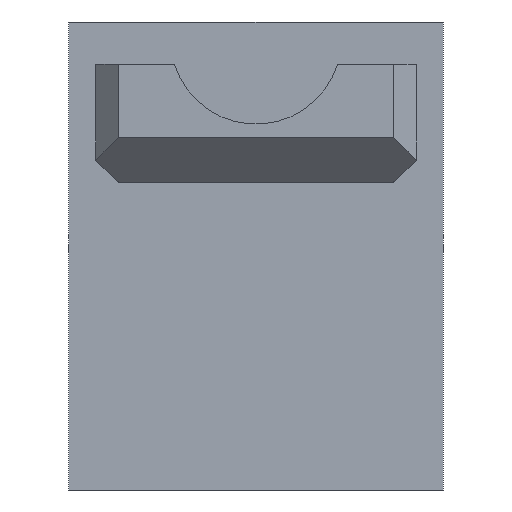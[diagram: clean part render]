
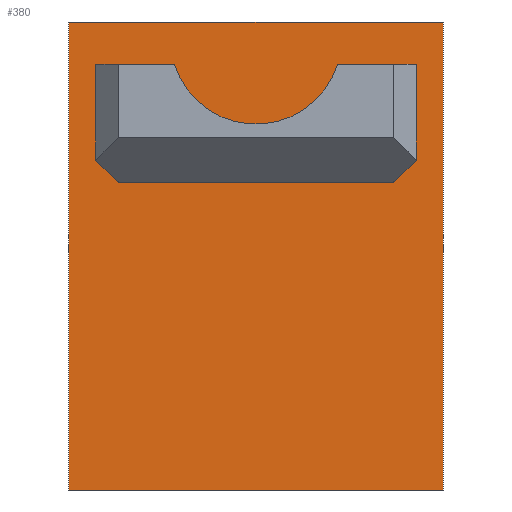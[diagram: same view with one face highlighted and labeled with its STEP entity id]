
A CAD part, left-side view. The second image highlights one B-rep face of the part: STEP entity #380.
In plain terms, the highlighted planar face has unit normal (-1, 0, 0).
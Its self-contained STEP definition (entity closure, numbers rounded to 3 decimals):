
#15=FACE_BOUND('',#142,.T.);
#27=LINE('',#574,#73);
#29=LINE('',#578,#75);
#31=LINE('',#582,#77);
#32=LINE('',#583,#78);
#33=LINE('',#586,#79);
#34=LINE('',#588,#80);
#35=LINE('',#590,#81);
#36=LINE('',#594,#82);
#37=LINE('',#595,#83);
#73=VECTOR('',#469,10.);
#75=VECTOR('',#473,10.);
#77=VECTOR('',#477,10.);
#78=VECTOR('',#478,10.);
#79=VECTOR('',#479,10.);
#80=VECTOR('',#480,10.);
#81=VECTOR('',#481,10.);
#82=VECTOR('',#484,10.);
#83=VECTOR('',#485,10.);
#119=FACE_OUTER_BOUND('',#141,.T.);
#141=EDGE_LOOP('',(#277,#278,#279,#280));
#142=EDGE_LOOP('',(#281,#282,#283,#284,#285,#286));
#162=CIRCLE('',#421,9.5);
#174=VERTEX_POINT('',#571);
#175=VERTEX_POINT('',#573);
#176=VERTEX_POINT('',#577);
#177=VERTEX_POINT('',#581);
#178=VERTEX_POINT('',#584);
#179=VERTEX_POINT('',#585);
#180=VERTEX_POINT('',#587);
#181=VERTEX_POINT('',#589);
#182=VERTEX_POINT('',#591);
#183=VERTEX_POINT('',#593);
#212=EDGE_CURVE('',#174,#175,#27,.T.);
#214=EDGE_CURVE('',#176,#175,#29,.T.);
#216=EDGE_CURVE('',#174,#177,#31,.T.);
#217=EDGE_CURVE('',#177,#176,#32,.T.);
#218=EDGE_CURVE('',#178,#179,#33,.T.);
#219=EDGE_CURVE('',#179,#180,#34,.T.);
#220=EDGE_CURVE('',#180,#181,#35,.T.);
#221=EDGE_CURVE('',#181,#182,#162,.T.);
#222=EDGE_CURVE('',#182,#183,#36,.T.);
#223=EDGE_CURVE('',#183,#178,#37,.T.);
#277=ORIENTED_EDGE('',*,*,#214,.T.);
#278=ORIENTED_EDGE('',*,*,#212,.F.);
#279=ORIENTED_EDGE('',*,*,#216,.T.);
#280=ORIENTED_EDGE('',*,*,#217,.T.);
#281=ORIENTED_EDGE('',*,*,#218,.T.);
#282=ORIENTED_EDGE('',*,*,#219,.T.);
#283=ORIENTED_EDGE('',*,*,#220,.T.);
#284=ORIENTED_EDGE('',*,*,#221,.T.);
#285=ORIENTED_EDGE('',*,*,#222,.T.);
#286=ORIENTED_EDGE('',*,*,#223,.T.);
#359=PLANE('',#420);
#380=ADVANCED_FACE('',(#119,#15),#359,.F.);
#420=AXIS2_PLACEMENT_3D('',#580,#475,#476);
#421=AXIS2_PLACEMENT_3D('',#592,#482,#483);
#469=DIRECTION('',(0.,1.,0.));
#473=DIRECTION('',(0.,0.,-1.));
#475=DIRECTION('center_axis',(1.,0.,0.));
#476=DIRECTION('ref_axis',(0.,1.,0.));
#477=DIRECTION('',(0.,0.,1.));
#478=DIRECTION('',(0.,1.,0.));
#479=DIRECTION('',(0.,1.,0.));
#480=DIRECTION('',(0.,0.,1.));
#481=DIRECTION('',(0.,-1.,0.));
#482=DIRECTION('center_axis',(-1.,0.,0.));
#483=DIRECTION('ref_axis',(0.,1.,0.));
#484=DIRECTION('',(0.,-1.,0.));
#485=DIRECTION('',(0.,0.,-1.));
#571=CARTESIAN_POINT('',(96.15,-20.8,-236.298));
#573=CARTESIAN_POINT('',(96.15,20.8,-236.298));
#574=CARTESIAN_POINT('',(96.15,-20.8,-236.298));
#577=CARTESIAN_POINT('',(96.15,20.8,-184.298));
#578=CARTESIAN_POINT('',(96.15,20.8,-196.033));
#580=CARTESIAN_POINT('Origin',(96.15,-15.3,-190.));
#581=CARTESIAN_POINT('',(96.15,-20.8,-184.298));
#582=CARTESIAN_POINT('',(96.15,-20.8,-183.851));
#583=CARTESIAN_POINT('',(96.15,-20.8,-184.298));
#584=CARTESIAN_POINT('',(96.15,-15.3,-202.15));
#585=CARTESIAN_POINT('',(96.15,15.3,-202.15));
#586=CARTESIAN_POINT('',(96.15,0.,-202.15));
#587=CARTESIAN_POINT('',(96.15,15.3,-189.));
#588=CARTESIAN_POINT('',(96.15,15.3,-196.046));
#589=CARTESIAN_POINT('',(96.15,9.062,-189.));
#590=CARTESIAN_POINT('',(96.15,0.,-189.));
#591=CARTESIAN_POINT('',(96.15,-9.062,-189.));
#592=CARTESIAN_POINT('Origin',(96.15,0.,-186.15));
#593=CARTESIAN_POINT('',(96.15,-15.3,-189.));
#594=CARTESIAN_POINT('',(96.15,0.,-189.));
#595=CARTESIAN_POINT('',(96.15,-15.3,-189.471));
